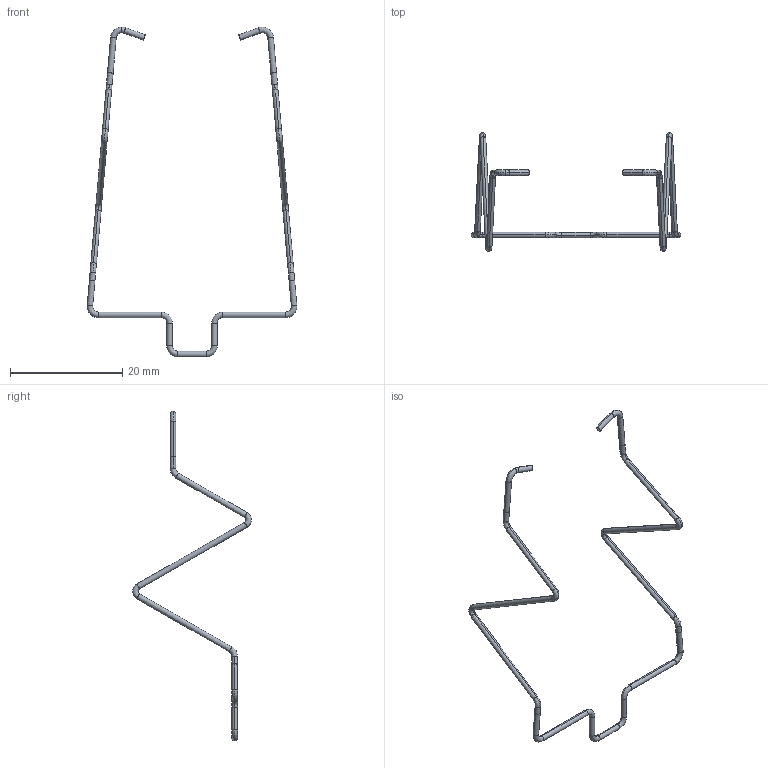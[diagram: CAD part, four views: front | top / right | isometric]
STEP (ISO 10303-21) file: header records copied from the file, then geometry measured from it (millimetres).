
FILE_DESCRIPTION (( 'STEP AP214' ), '1' );
FILE_NAME ('SE52M¿¨»É 8.383.613.01SW.STEP', '2023-05-13T06:16:23', ( 'Win7-Client' ), ( '' ), 'SwSTEP 2.0', 'SolidWorks 2018', '' );
FILE_SCHEMA (( 'AUTOMOTIVE_DESIGN' ));
Length unit declared in the file: millimetre
Products named in the file (1): SE52M縐銅 8.383.613.01SW
Bounding box: 37.39 x 21.17 x 58.8 mm (x, y, z)
Volume: 170.1 mm3; surface area: 681.8 mm2
Topology: 1 solids, 1 shells, 78 faces, 186 edges, 110 vertices
Faces by surface type: cylinder 42, torus 34, plane 2
Entity records: 2332 total; most frequent: DIRECTION 488, CARTESIAN_POINT 375, ORIENTED_EDGE 372, AXIS2_PLACEMENT_3D 223, EDGE_CURVE 186, CIRCLE 144, VERTEX_POINT 110, FACE_OUTER_BOUND 78
